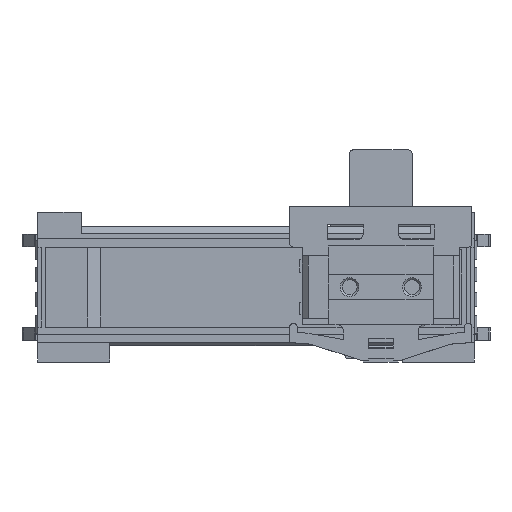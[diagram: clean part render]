
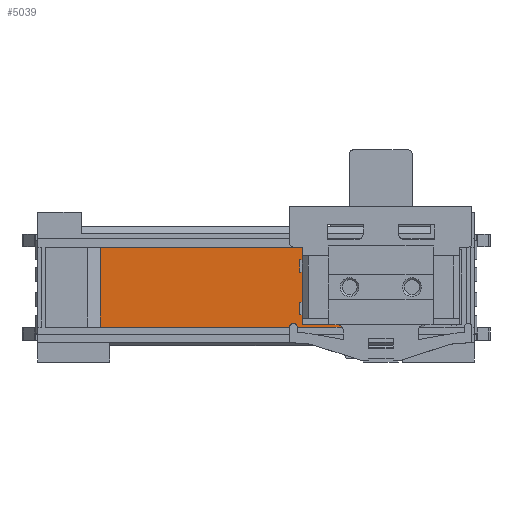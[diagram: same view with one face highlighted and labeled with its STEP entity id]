
A CAD part, top view. The second image highlights one B-rep face of the part: STEP entity #5039.
In plain terms, the highlighted planar face has unit normal (0, 0, 1).
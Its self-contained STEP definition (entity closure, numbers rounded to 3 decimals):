
#5039 = ADVANCED_FACE ( 'NONE', ( #12953 ), #15745, .T. ) ;
#6558 = LINE ( 'NONE', #10863, #6559 ) ;
#6559 = VECTOR ( 'NONE', #10864, 1000. ) ;
#6560 = LINE ( 'NONE', #10865, #6561 ) ;
#6561 = VECTOR ( 'NONE', #10866, 1000. ) ;
#6564 = LINE ( 'NONE', #10869, #6565 ) ;
#6565 = VECTOR ( 'NONE', #10870, 1000. ) ;
#7377 = LINE ( 'NONE', #21785, #7393 ) ;
#7387 = LINE ( 'NONE', #21787, #7388 ) ;
#7388 = VECTOR ( 'NONE', #21788, 1000. ) ;
#7391 = LINE ( 'NONE', #21791, #7392 ) ;
#7392 = VECTOR ( 'NONE', #21792, 1000. ) ;
#7393 = VECTOR ( 'NONE', #21794, 1000. ) ;
#7956 = CARTESIAN_POINT ( 'NONE',  ( -12.461, 3.2, 1.6 ) ) ;
#8042 = CARTESIAN_POINT ( 'NONE',  ( 3.7, 3., 1.6 ) ) ;
#8085 = CARTESIAN_POINT ( 'NONE',  ( 3.7, -3., 1.6 ) ) ;
#8949 = EDGE_CURVE ( 'NONE', #33688, #30796, #7387, .T. ) ;
#8951 = EDGE_CURVE ( 'NONE', #33688, #33645, #7391, .T. ) ;
#8952 = EDGE_CURVE ( 'NONE', #33645, #30421, #7377, .T. ) ;
#9485 = EDGE_CURVE ( 'NONE', #33463, #29797, #17504, .T. ) ;
#10284 = CARTESIAN_POINT ( 'NONE',  ( 12.461, -500000., 1.6 ) ) ;
#10285 = DIRECTION ( 'NONE',  ( 0., 1., 0. ) ) ;
#10863 = CARTESIAN_POINT ( 'NONE',  ( -12.461, -500000., 1.6 ) ) ;
#10864 = DIRECTION ( 'NONE',  ( 0., 1., 0. ) ) ;
#10865 = CARTESIAN_POINT ( 'NONE',  ( -16.9, -3.2, 1.6 ) ) ;
#10866 = DIRECTION ( 'NONE',  ( -1., 0., 0. ) ) ;
#10869 = CARTESIAN_POINT ( 'NONE',  ( 12.461, -500000., 1.6 ) ) ;
#10870 = DIRECTION ( 'NONE',  ( 0., 1., 0. ) ) ;
#11150 = CARTESIAN_POINT ( 'NONE',  ( 12.461, 3.2, 1.6 ) ) ;
#11600 = CARTESIAN_POINT ( 'NONE',  ( 12.461, 3., 1.6 ) ) ;
#11682 = CARTESIAN_POINT ( 'NONE',  ( -12.461, -3.2, 1.6 ) ) ;
#11684 = CARTESIAN_POINT ( 'NONE',  ( 12.461, -3.2, 1.6 ) ) ;
#11768 = CARTESIAN_POINT ( 'NONE',  ( 12.461, -3., 1.6 ) ) ;
#12953 = FACE_OUTER_BOUND ( 'NONE', #23901, .T. ) ;
#13081 = ORIENTED_EDGE ( 'NONE', *, *, #32668, .T. ) ;
#13092 = ORIENTED_EDGE ( 'NONE', *, *, #8949, .F. ) ;
#13124 = ORIENTED_EDGE ( 'NONE', *, *, #8952, .T. ) ;
#13129 = ORIENTED_EDGE ( 'NONE', *, *, #32941, .F. ) ;
#13130 = ORIENTED_EDGE ( 'NONE', *, *, #32942, .F. ) ;
#13134 = ORIENTED_EDGE ( 'NONE', *, *, #9485, .F. ) ;
#13146 = ORIENTED_EDGE ( 'NONE', *, *, #8951, .T. ) ;
#13163 = ORIENTED_EDGE ( 'NONE', *, *, #32944, .T. ) ;
#15737 = CARTESIAN_POINT ( 'NONE',  ( -13.3, -4.45, 1.6 ) ) ;
#15745 = PLANE ( 'NONE',  #20252 ) ;
#15757 = DIRECTION ( 'NONE',  ( 0., 0., 1. ) ) ;
#15758 = DIRECTION ( 'NONE',  ( 0., -1., 0. ) ) ;
#17504 = LINE ( 'NONE', #18220, #17505 ) ;
#17505 = VECTOR ( 'NONE', #18221, 1000. ) ;
#18220 = CARTESIAN_POINT ( 'NONE',  ( -16.9, 3.2, 1.6 ) ) ;
#18221 = DIRECTION ( 'NONE',  ( 1., 0., 0. ) ) ;
#20252 = AXIS2_PLACEMENT_3D ( 'NONE', #15737, #15757, #15758 ) ;
#21397 = LINE ( 'NONE', #10284, #21399 ) ;
#21399 = VECTOR ( 'NONE', #10285, 1000. ) ;
#21785 = CARTESIAN_POINT ( 'NONE',  ( -13.3, 3., 1.6 ) ) ;
#21787 = CARTESIAN_POINT ( 'NONE',  ( -13.3, -3., 1.6 ) ) ;
#21788 = DIRECTION ( 'NONE',  ( 1., 0., 0. ) ) ;
#21791 = CARTESIAN_POINT ( 'NONE',  ( 3.7, -4.45, 1.6 ) ) ;
#21792 = DIRECTION ( 'NONE',  ( 0., 1., 0. ) ) ;
#21794 = DIRECTION ( 'NONE',  ( 1., 0., 0. ) ) ;
#23901 = EDGE_LOOP ( 'NONE', ( #13081, #13134, #13129, #13130, #13163, #13092, #13146, #13124 ) ) ;
#29797 = VERTEX_POINT ( 'NONE', #11150 ) ;
#30421 = VERTEX_POINT ( 'NONE', #11600 ) ;
#30601 = VERTEX_POINT ( 'NONE', #11682 ) ;
#30610 = VERTEX_POINT ( 'NONE', #11684 ) ;
#30796 = VERTEX_POINT ( 'NONE', #11768 ) ;
#32668 = EDGE_CURVE ( 'NONE', #30421, #29797, #21397, .T. ) ;
#32941 = EDGE_CURVE ( 'NONE', #30601, #33463, #6558, .T. ) ;
#32942 = EDGE_CURVE ( 'NONE', #30610, #30601, #6560, .T. ) ;
#32944 = EDGE_CURVE ( 'NONE', #30610, #30796, #6564, .T. ) ;
#33463 = VERTEX_POINT ( 'NONE', #7956 ) ;
#33645 = VERTEX_POINT ( 'NONE', #8042 ) ;
#33688 = VERTEX_POINT ( 'NONE', #8085 ) ;
